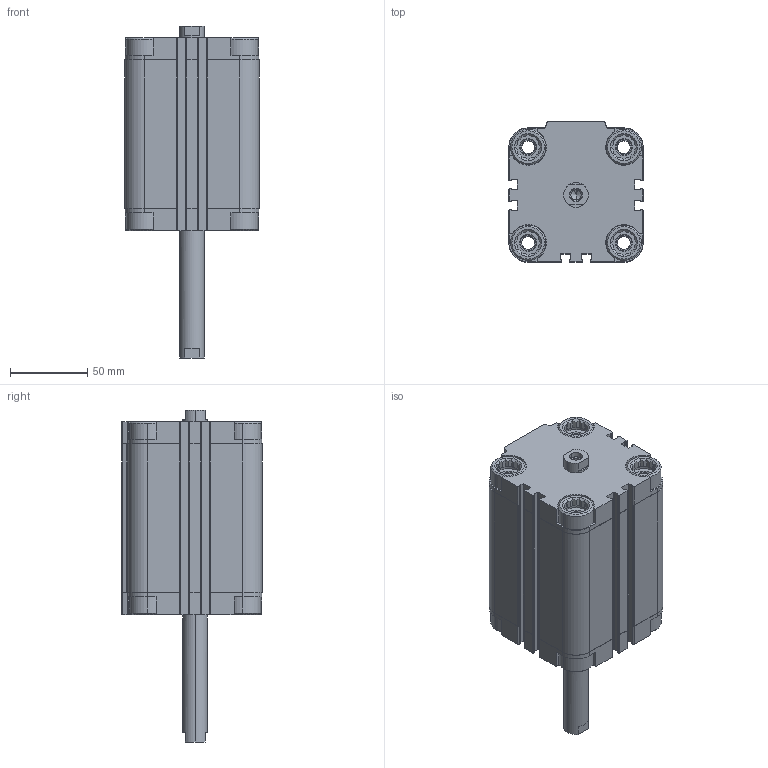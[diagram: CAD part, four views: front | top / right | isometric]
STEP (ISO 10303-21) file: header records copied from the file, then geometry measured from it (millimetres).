
FILE_DESCRIPTION (( 'STEP AP203' ), '1' );
FILE_NAME ('CDVU63-75F-P.STEP', '2020-07-24T18:38:38', ( '' ), ( '' ), 'SwSTEP 2.0', 'SolidWorks 2019', '' );
FILE_SCHEMA (( 'CONFIG_CONTROL_DESIGN' ));
Length unit declared in the file: millimetre
Products named in the file (1): CDVU63-75F-P
Bounding box: 87 x 91 x 215 mm (x, y, z)
Volume: 635894.9 mm3; surface area: 138715.4 mm2
Topology: 2 solids, 2 shells, 622 faces, 1668 edges, 1092 vertices
Faces by surface type: plane 370, cylinder 188, cone 64
Entity records: 19635 total; most frequent: CARTESIAN_POINT 3951, ORIENTED_EDGE 3320, DIRECTION 3170, EDGE_CURVE 1660, VERTEX_POINT 1092, AXIS2_PLACEMENT_3D 1079, LINE 1012, VECTOR 1012
